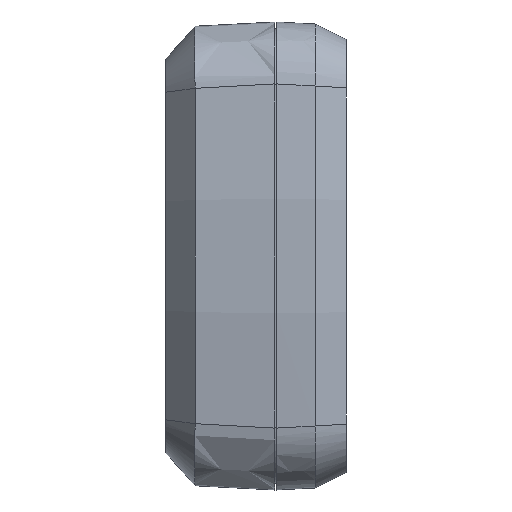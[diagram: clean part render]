
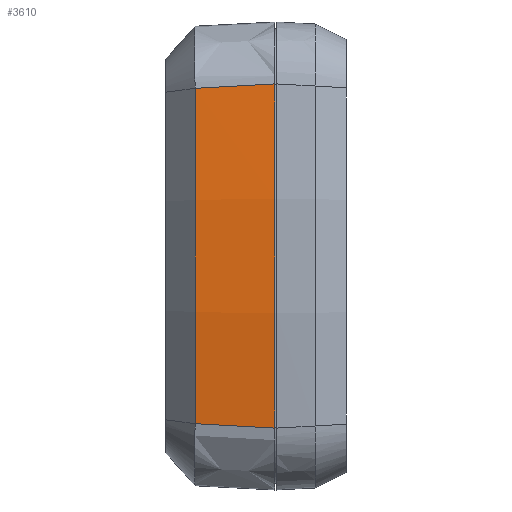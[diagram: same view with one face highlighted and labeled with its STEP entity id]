
A CAD part, left-side view. The second image highlights one B-rep face of the part: STEP entity #3610.
In plain terms, the highlighted conical face has half-angle 3 degrees and reference radius 246.01 mm.
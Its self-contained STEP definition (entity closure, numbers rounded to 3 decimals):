
#194 = CARTESIAN_POINT ( 'NONE',  ( 188.81, 0., 0. ) ) ;
#450 = CARTESIAN_POINT ( 'NONE',  ( 188.81, 0., 0. ) ) ;
#841 = VERTEX_POINT ( 'NONE', #5913 ) ;
#1120 = DIRECTION ( 'NONE',  ( 0., 0., 1. ) ) ;
#1357 = DIRECTION ( 'NONE',  ( 0., 0., 1. ) ) ;
#1702 = CARTESIAN_POINT ( 'NONE',  ( -55.313, 0., -30.41 ) ) ;
#2368 = AXIS2_PLACEMENT_3D ( 'NONE', #4125, #10462, #5023 ) ;
#2527 = CARTESIAN_POINT ( 'NONE',  ( -54.664, 14.107, -29.636 ) ) ;
#2540 = CARTESIAN_POINT ( 'NONE',  ( -54.664, 14.107, -29.636 ) ) ;
#3119 = CARTESIAN_POINT ( 'NONE',  ( -54.664, 14.107, 29.636 ) ) ;
#3202 = EDGE_CURVE ( 'NONE', #841, #10232, #8354, .T. ) ;
#3279 = EDGE_CURVE ( 'NONE', #10232, #7371, #5952, .T. ) ;
#3610 = ADVANCED_FACE ( 'NONE', ( #4543 ), #6398, .T. ) ;
#3746 = DIRECTION ( 'NONE',  ( 0., -1., 0. ) ) ;
#3815 = CARTESIAN_POINT ( 'NONE',  ( -55.313, 0., -30.41 ) ) ;
#3920 = CARTESIAN_POINT ( 'NONE',  ( -54.88, 9.405, 29.894 ) ) ;
#4125 = CARTESIAN_POINT ( 'NONE',  ( 188.81, 14.107, 0. ) ) ;
#4246 = AXIS2_PLACEMENT_3D ( 'NONE', #450, #6821, #1357 ) ;
#4543 = FACE_OUTER_BOUND ( 'NONE', #10907, .T. ) ;
#4742 = ORIENTED_EDGE ( 'NONE', *, *, #5591, .T. ) ;
#5023 = DIRECTION ( 'NONE',  ( 0., 0., -1. ) ) ;
#5591 = EDGE_CURVE ( 'NONE', #7371, #6809, #5824, .T. ) ;
#5602 = CARTESIAN_POINT ( 'NONE',  ( -55.097, 4.702, 30.152 ) ) ;
#5824 = B_SPLINE_CURVE_WITH_KNOTS ( 'NONE', 3,
 ( #2527, #8002, #9253, #3815 ),
 .UNSPECIFIED., .F., .F.,
 ( 4, 4 ),
 ( 0.005, 0.019 ),
 .UNSPECIFIED. ) ;
#5913 = CARTESIAN_POINT ( 'NONE',  ( -55.313, 0., 30.41 ) ) ;
#5952 = CIRCLE ( 'NONE', #2368, 245.271 ) ;
#6305 = EDGE_CURVE ( 'NONE', #6809, #841, #10174, .T. ) ;
#6393 = ORIENTED_EDGE ( 'NONE', *, *, #6305, .T. ) ;
#6398 = CONICAL_SURFACE ( 'NONE', #10295, 246.01, 0.052 ) ;
#6809 = VERTEX_POINT ( 'NONE', #1702 ) ;
#6821 = DIRECTION ( 'NONE',  ( 0., 1., 0. ) ) ;
#7371 = VERTEX_POINT ( 'NONE', #2540 ) ;
#8002 = CARTESIAN_POINT ( 'NONE',  ( -54.88, 9.405, -29.894 ) ) ;
#8354 = B_SPLINE_CURVE_WITH_KNOTS ( 'NONE', 3,
 ( #9320, #5602, #3920, #10262 ),
 .UNSPECIFIED., .F., .F.,
 ( 4, 4 ),
 ( 0., 0.014 ),
 .UNSPECIFIED. ) ;
#9253 = CARTESIAN_POINT ( 'NONE',  ( -55.097, 4.702, -30.152 ) ) ;
#9320 = CARTESIAN_POINT ( 'NONE',  ( -55.313, 0., 30.41 ) ) ;
#9962 = ORIENTED_EDGE ( 'NONE', *, *, #3279, .T. ) ;
#10174 = CIRCLE ( 'NONE', #4246, 246.01 ) ;
#10232 = VERTEX_POINT ( 'NONE', #3119 ) ;
#10262 = CARTESIAN_POINT ( 'NONE',  ( -54.664, 14.107, 29.636 ) ) ;
#10295 = AXIS2_PLACEMENT_3D ( 'NONE', #194, #3746, #1120 ) ;
#10462 = DIRECTION ( 'NONE',  ( 0., -1., 0. ) ) ;
#10469 = ORIENTED_EDGE ( 'NONE', *, *, #3202, .T. ) ;
#10907 = EDGE_LOOP ( 'NONE', ( #10469, #9962, #4742, #6393 ) ) ;
